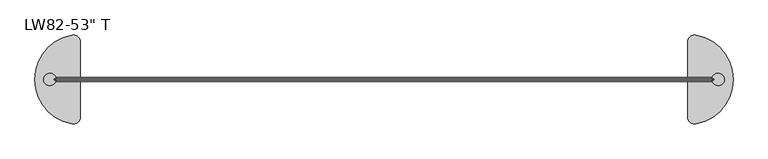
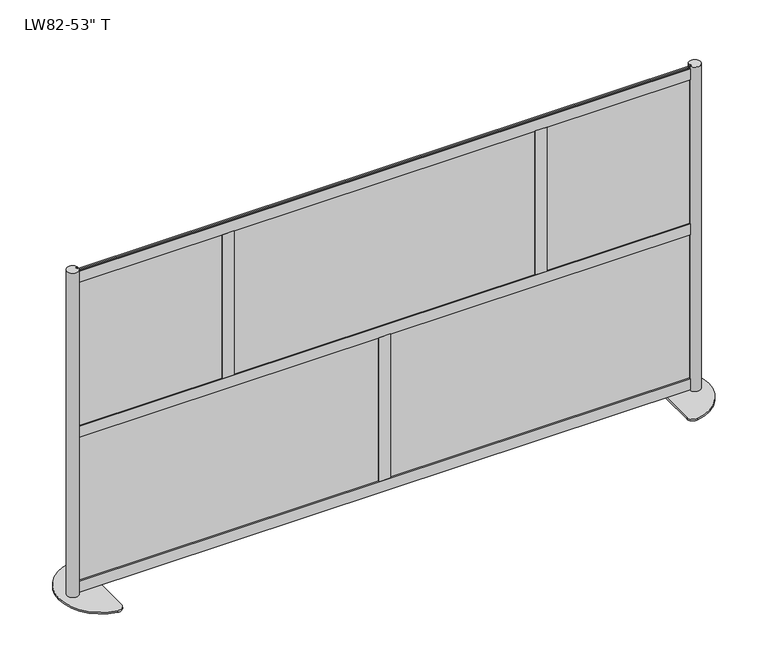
"""IFC4 building model written with IfcOpenShell, lengths in millimetres: furniture geometry."""

from ifc_helpers import new_model, si_unit, point, frame, frame_2d, origin, origin_with_axes, place, context, project, spatial, polyline, circle_curve, trimmed, segment, composite_curve, outline, extrude, source, transform, mapped, element, save


def furniture_b7a553f2(model_context):
    return source(origin(), model_context, "Body", "SweptSolid", [
        extrude(outline(polyline([(596.8955274, -1.5875), (-592.1419726, -1.5875), (-592.1419726, 1.5875), (596.8955274, 1.5875), (596.8955274, -1.5875)])), frame((0.0, 0.0, 689.2671), z_axis=(0.0, 0.0, 1.0), x_axis=(1.0, 0.0, 0.0)), (0.0, 0.0, 1.0), 608.965),
        extrude(outline(polyline([(1208.4321897, -1.5875), (19.3946897, -1.5875), (19.3946897, 1.5875), (1208.4321897, 1.5875), (1208.4321897, -1.5875)])), frame((0.0, 0.0, 49.2633), z_axis=(0.0, 0.0, 1.0), x_axis=(1.0, 0.0, 0.0)), (0.0, 0.0, 1.0), 608.965),
        extrude(outline(polyline([(-14.6411349, -1.5875), (-1203.6786349, -1.5875), (-1203.6786349, 1.5875), (-14.6411349, 1.5875), (-14.6411349, -1.5875)])), frame((0.0, 0.0, 49.2633), z_axis=(0.0, 0.0, 1.0), x_axis=(1.0, 0.0, 0.0)), (0.0, 0.0, 1.0), 608.965),
        extrude(outline(polyline([(625.9190822, 1.5875), (1203.769083, 1.5875), (1203.7689093, -1.5875), (625.9189085, -1.5875), (625.9190822, 1.5875)])), frame((0.0, 0.0, 689.2671), z_axis=(0.0, 0.0, 1.0), x_axis=(1.0, 0.0, 0.0)), (0.0, 0.0, 1.0), 608.965),
        extrude(outline(polyline([(-1202.9125801, 1.5875), (-625.0625793, 1.5875), (-625.0627529, -1.5875), (-1202.9127538, -1.5875), (-1202.9125801, 1.5875)])), frame((0.0, 0.0, 689.2671), z_axis=(0.0, 0.0, 1.0), x_axis=(1.0, 0.0, 0.0)), (0.0, 0.0, 1.0), 608.965),
        extrude(outline(polyline([(22.6314, 3.556), (15.5194, 3.556), (15.5194, -3.556), (22.6314, -3.556), (22.6314, -7.6327), (-22.6314, -7.6327), (-22.6314, -3.556), (-15.5194, -3.556), (-15.5194, 3.556), (-22.6314, 3.556), (-22.6314, 7.6327), (22.6314, 7.6327), (22.6314, 3.556)])), frame((0.0, 0.0, 56.3753), z_axis=(0.0, 0.0, 1.0), x_axis=(1.0, 0.0, 0.0)), (0.0, 0.0, 1.0), 594.741),
        extrude(outline(polyline([(634.1680623, 3.556), (627.0560623, 3.556), (627.0560623, -3.556), (634.1680623, -3.556), (634.1680623, -7.6327), (588.9052623, -7.6327), (588.9052623, -3.556), (596.0172623, -3.556), (596.0172623, 3.556), (588.9052623, 3.556), (588.9052623, 7.6327), (634.1680623, 7.6327), (634.1680623, 3.556)])), frame((0.0, 0.0, 696.3791), z_axis=(0.0, 0.0, 1.0), x_axis=(1.0, 0.0, 0.0)), (0.0, 0.0, 1.0), 594.741),
        extrude(outline(polyline([(-634.1680623, 3.556), (-634.1680623, 7.6327), (-588.9052623, 7.6327), (-588.9052623, 3.556), (-596.0172623, 3.556), (-596.0172623, -3.556), (-588.9052623, -3.556), (-588.9052623, -7.6327), (-634.1680623, -7.6327), (-634.1680623, -3.556), (-627.0560623, -3.556), (-627.0560623, 3.556), (-634.1680623, 3.556)])), frame((0.0, 0.0, 696.3791), z_axis=(0.0, 0.0, 1.0), x_axis=(1.0, 0.0, 0.0)), (0.0, 0.0, 1.0), 594.741),
        extrude(outline(polyline([(3.556, 651.1163), (3.556, 658.2283), (-3.556, 658.2283), (-3.556, 651.1163), (-7.6327, 651.1163), (-7.6327, 696.3791), (-3.556, 696.3791), (-3.556, 689.2671), (3.556, 689.2671), (3.556, 696.3791), (7.6327, 696.3791), (7.6327, 651.1163), (3.556, 651.1163)])), frame((-1194.5874, 0.0, 0.0), z_axis=(1.0, 0.0, 0.0), x_axis=(0.0, 1.0, 0.0)), (0.0, 0.0, 1.0), 2389.1748),
        extrude(outline(polyline([(3.556, 11.1125), (3.556, 18.2245), (-3.556, 18.2245), (-3.556, 11.1125), (-7.6327, 11.1125), (-7.6327, 56.3753), (-3.556, 56.3753), (-3.556, 49.2633), (3.556, 49.2633), (3.556, 56.3753), (7.6327, 56.3753), (7.6327, 11.1125), (3.556, 11.1125)])), frame((-1194.6636, 0.0, 0.0), z_axis=(1.0, 0.0, 0.0), x_axis=(0.0, 1.0, 0.0)), (0.0, 0.0, 1.0), 2389.3272),
        extrude(outline(polyline([(3.556, 1291.1200292), (3.556, 1298.2320292), (-3.556, 1298.2320292), (-3.556, 1291.1200292), (-7.6327, 1291.1200292), (-7.6327, 1336.3828292), (-3.556, 1336.3828292), (-3.556, 1329.2708292), (3.556, 1329.2708292), (3.556, 1336.3828292), (7.6327, 1336.3828292), (7.6327, 1291.1200292), (3.556, 1291.1200292)])), frame((-1194.6636, 0.0, 0.0), z_axis=(1.0, 0.0, 0.0), x_axis=(0.0, 1.0, 0.0)), (0.0, 0.0, 1.0), 2389.3272),
        extrude(outline(composite_curve([segment(polyline([(1194.6636, -7.7568093), (1194.6636, -3.556), (1201.7756, -3.556), (1201.7756, 3.556), (1194.6636, 3.556), (1194.6636, 7.7568093)]), True, "CONTINUOUS"), segment(trimmed(circle_curve(frame_2d((1215.7665837, 0.0)), 22.4834163), [point((1194.6636, 7.7568093))], [point((1194.6636, -7.7568093))], False, "CARTESIAN"), True, "CONTINUOUS")], self_intersect=False)), frame((0.0, 0.0, 6.35), z_axis=(0.0, 0.0, 1.0), x_axis=(1.0, 0.0, 0.0)), (0.0, 0.0, 1.0), 1339.85),
        extrude(outline(composite_curve([segment(polyline([(1104.9, -137.3715036), (1104.9, 137.3715036)]), True, "CONTINUOUS"), segment(trimmed(circle_curve(frame_2d((1130.3, 137.3715036)), 25.4), [point((1104.9, 137.3715036))], [point((1134.9181818, 162.3481406))], False, "CARTESIAN"), True, "CONTINUOUS"), segment(trimmed(circle_curve(frame_2d((1104.9, 0.0)), 165.1), [point((1134.9181818, 162.3481406))], [point((1270.0, 0.0))], False, "CARTESIAN"), True, "CONTINUOUS"), segment(trimmed(circle_curve(frame_2d((1104.9, 0.0)), 165.1), [point((1270.0, 0.0))], [point((1134.9181818, -162.3481406))], False, "CARTESIAN"), True, "CONTINUOUS"), segment(trimmed(circle_curve(frame_2d((1130.3, -137.3715036)), 25.4), [point((1134.9181818, -162.3481406))], [point((1104.9, -137.3715036))], False, "CARTESIAN"), True, "CONTINUOUS")], self_intersect=False)), origin_with_axes(), (0.0, 0.0, 1.0), 6.35),
        extrude(outline(composite_curve([segment(trimmed(circle_curve(frame_2d((-1215.7665837, 0.0)), 22.4834163), [point((-1194.6636, -7.7568093))], [point((-1194.6636, 7.7568093))], False, "CARTESIAN"), True, "CONTINUOUS"), segment(polyline([(-1194.6636, 7.7568093), (-1194.6636, 3.556), (-1201.7756, 3.556), (-1201.7756, -3.556), (-1194.6636, -3.556), (-1194.6636, -7.7568093)]), True, "CONTINUOUS")], self_intersect=False)), frame((0.0, 0.0, 6.35), z_axis=(0.0, 0.0, 1.0), x_axis=(1.0, 0.0, 0.0)), (0.0, 0.0, 1.0), 1339.85),
        extrude(outline(composite_curve([segment(trimmed(circle_curve(frame_2d((-1130.3, -137.3715036)), 25.4), [point((-1104.9, -137.3715036))], [point((-1134.9181818, -162.3481406))], False, "CARTESIAN"), True, "CONTINUOUS"), segment(trimmed(circle_curve(frame_2d((-1104.9, 0.0)), 165.1), [point((-1134.9181818, -162.3481406))], [point((-1270.0, 0.0))], False, "CARTESIAN"), True, "CONTINUOUS"), segment(trimmed(circle_curve(frame_2d((-1104.9, 0.0)), 165.1), [point((-1270.0, 0.0))], [point((-1134.9181818, 162.3481406))], False, "CARTESIAN"), True, "CONTINUOUS"), segment(trimmed(circle_curve(frame_2d((-1130.3, 137.3715036)), 25.4), [point((-1134.9181818, 162.3481406))], [point((-1104.9, 137.3715036))], False, "CARTESIAN"), True, "CONTINUOUS"), segment(polyline([(-1104.9, 137.3715036), (-1104.9, -137.3715036)]), True, "CONTINUOUS")], self_intersect=False)), origin_with_axes(), (0.0, 0.0, 1.0), 6.35),
    ])


if __name__ == "__main__":
    model = new_model("IFC4")
    model_context = context("Model", 3, world=origin())
    ifc_project = project(units=[si_unit("LENGTHUNIT", "METRE", prefix="MILLI")], contexts=[model_context])
    site = spatial("IfcSite", under=ifc_project)
    building = spatial("IfcBuilding", under=site)
    placement = place(None, origin())
    furniture_shape = furniture_b7a553f2(model_context)
    element("IfcFurniture", 1, ObjectType="Loft_Wall-Framewall-100 : LW82-53\" T", at=placement, inside=building, context=model_context, shape_type="MappedRepresentation", body=[
        mapped(furniture_shape, transform((0.0, 0.0, 0.0), x_axis=(1.0, 0.0, 0.0), y_axis=(0.0, 1.0, 0.0), z_axis=(0.0, 0.0, 1.0))),
    ])
    save(model, "model.ifc")
